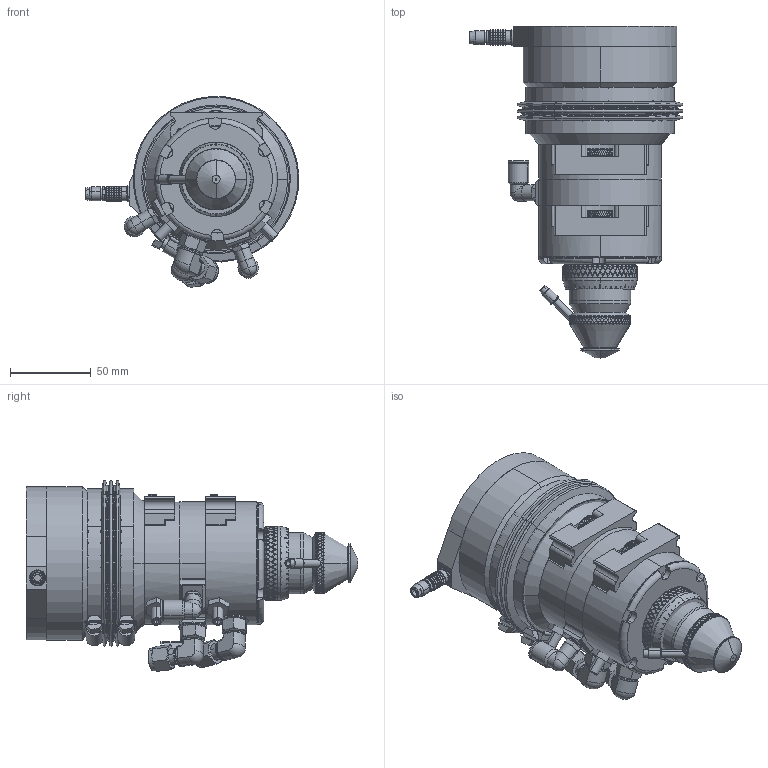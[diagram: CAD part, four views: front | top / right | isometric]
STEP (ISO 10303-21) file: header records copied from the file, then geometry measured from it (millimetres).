
FILE_DESCRIPTION (( 'STEP AP214' ), '1' );
FILE_NAME ('G4-38-089-127-AMX-CP.STEP', '2017-01-10T15:46:20', ( '' ), ( '' ), 'SwSTEP 2.0', 'SolidWorks 2017', '' );
FILE_SCHEMA (( 'AUTOMOTIVE_DESIGN' ));
Length unit declared in the file: inch
Products named in the file (1): G4-38-089-127-AMX-CP
Bounding box: 132.5 x 205.94 x 118.42 mm (x, y, z)
Volume: 988676 mm3; surface area: 256623.9 mm2
Topology: 61 solids, 61 shells, 6689 faces, 17021 edges, 10578 vertices
Faces by surface type: plane 4347, cylinder 1552, cone 619, torus 105, bspline 54, sphere 12
Entity records: 203967 total; most frequent: CARTESIAN_POINT 53389, ORIENTED_EDGE 34026, DIRECTION 28058, EDGE_CURVE 17013, VERTEX_POINT 10578, AXIS2_PLACEMENT_3D 9623, LINE 8812, VECTOR 8812
